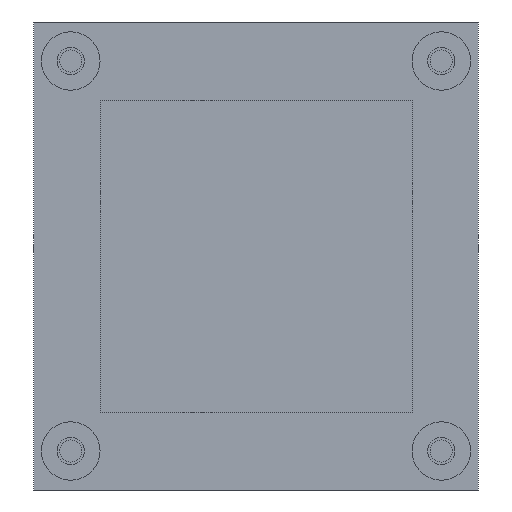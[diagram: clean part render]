
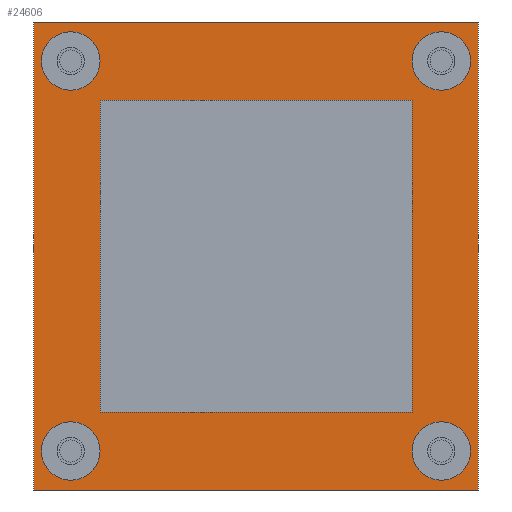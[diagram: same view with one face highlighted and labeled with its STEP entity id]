
A CAD part, front view. The second image highlights one B-rep face of the part: STEP entity #24606.
In plain terms, the highlighted planar face has unit normal (0, -1, 0).
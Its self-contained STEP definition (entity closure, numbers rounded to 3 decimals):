
#23 = FACE_BOUND ( 'NONE', #15666, .T. ) ;
#33 = DIRECTION ( 'NONE',  ( 0., -1., 0. ) ) ;
#80 = EDGE_CURVE ( 'NONE', #17580, #8011, #15087, .T. ) ;
#237 = DIRECTION ( 'NONE',  ( 1., 0., 0. ) ) ;
#439 = CARTESIAN_POINT ( 'NONE',  ( -24.13, 0., -21.59 ) ) ;
#485 = CIRCLE ( 'NONE', #2082, 3.81 ) ;
#568 = CARTESIAN_POINT ( 'NONE',  ( 24.13, 0., 21.59 ) ) ;
#612 = DIRECTION ( 'NONE',  ( 0., -1., 0. ) ) ;
#916 = EDGE_CURVE ( 'NONE', #8011, #16104, #21661, .T. ) ;
#1008 = EDGE_CURVE ( 'NONE', #1773, #10477, #3558, .T. ) ;
#1180 = CIRCLE ( 'NONE', #15220, 3.81 ) ;
#1326 = ORIENTED_EDGE ( 'NONE', *, *, #916, .F. ) ;
#1750 = VERTEX_POINT ( 'NONE', #568 ) ;
#1773 = VERTEX_POINT ( 'NONE', #4477 ) ;
#1803 = EDGE_LOOP ( 'NONE', ( #9414, #2310 ) ) ;
#1907 = FACE_BOUND ( 'NONE', #20688, .T. ) ;
#2082 = AXIS2_PLACEMENT_3D ( 'NONE', #17818, #612, #23592 ) ;
#2145 = EDGE_CURVE ( 'NONE', #1750, #7308, #1180, .T. ) ;
#2310 = ORIENTED_EDGE ( 'NONE', *, *, #24166, .F. ) ;
#2871 = AXIS2_PLACEMENT_3D ( 'NONE', #7808, #3555, #5550 ) ;
#2904 = VERTEX_POINT ( 'NONE', #8644 ) ;
#3083 = AXIS2_PLACEMENT_3D ( 'NONE', #19927, #18192, #3140 ) ;
#3140 = DIRECTION ( 'NONE',  ( 0., 0., -1. ) ) ;
#3280 = CARTESIAN_POINT ( 'NONE',  ( -24.13, 0., -29.21 ) ) ;
#3405 = DIRECTION ( 'NONE',  ( 0., -1., 0. ) ) ;
#3432 = DIRECTION ( 'NONE',  ( 0., 0., -1. ) ) ;
#3448 = ORIENTED_EDGE ( 'NONE', *, *, #21529, .F. ) ;
#3555 = DIRECTION ( 'NONE',  ( 0., 1., 0. ) ) ;
#3558 = CIRCLE ( 'NONE', #11216, 3.81 ) ;
#3788 = AXIS2_PLACEMENT_3D ( 'NONE', #11256, #5185, #18486 ) ;
#3982 = VERTEX_POINT ( 'NONE', #21063 ) ;
#4397 = CARTESIAN_POINT ( 'NONE',  ( 24.13, 0., -25.4 ) ) ;
#4477 = CARTESIAN_POINT ( 'NONE',  ( -24.13, 0., 21.59 ) ) ;
#4989 = DIRECTION ( 'NONE',  ( 0., 0., 1. ) ) ;
#5027 = CARTESIAN_POINT ( 'NONE',  ( -28.956, 0., -30.48 ) ) ;
#5185 = DIRECTION ( 'NONE',  ( 0., -1., 0. ) ) ;
#5245 = AXIS2_PLACEMENT_3D ( 'NONE', #4397, #20154, #6748 ) ;
#5550 = DIRECTION ( 'NONE',  ( 1., 0., 0. ) ) ;
#5667 = FACE_OUTER_BOUND ( 'NONE', #12118, .T. ) ;
#6259 = DIRECTION ( 'NONE',  ( 0., -1., 0. ) ) ;
#6493 = VECTOR ( 'NONE', #4989, 1000. ) ;
#6545 = EDGE_CURVE ( 'NONE', #2904, #3982, #8380, .T. ) ;
#6748 = DIRECTION ( 'NONE',  ( 0., 0., -1. ) ) ;
#6928 = ORIENTED_EDGE ( 'NONE', *, *, #12478, .F. ) ;
#7031 = DIRECTION ( 'NONE',  ( 0., 0., -1. ) ) ;
#7308 = VERTEX_POINT ( 'NONE', #15150 ) ;
#7808 = CARTESIAN_POINT ( 'NONE',  ( -28.956, 0., 30.48 ) ) ;
#8011 = VERTEX_POINT ( 'NONE', #22782 ) ;
#8380 = CIRCLE ( 'NONE', #16008, 3.81 ) ;
#8644 = CARTESIAN_POINT ( 'NONE',  ( 24.13, 0., -21.59 ) ) ;
#9414 = ORIENTED_EDGE ( 'NONE', *, *, #2145, .F. ) ;
#9545 = CIRCLE ( 'NONE', #3083, 3.81 ) ;
#10305 = DIRECTION ( 'NONE',  ( 0., 0., -1. ) ) ;
#10477 = VERTEX_POINT ( 'NONE', #13289 ) ;
#10540 = VERTEX_POINT ( 'NONE', #439 ) ;
#11060 = LINE ( 'NONE', #22544, #6493 ) ;
#11216 = AXIS2_PLACEMENT_3D ( 'NONE', #12403, #33, #3432 ) ;
#11256 = CARTESIAN_POINT ( 'NONE',  ( -24.13, 0., 25.4 ) ) ;
#11583 = VECTOR ( 'NONE', #237, 1000. ) ;
#11985 = EDGE_CURVE ( 'NONE', #10540, #17431, #9545, .T. ) ;
#12118 = EDGE_LOOP ( 'NONE', ( #17480, #17250, #1326, #20762 ) ) ;
#12184 = ORIENTED_EDGE ( 'NONE', *, *, #11985, .F. ) ;
#12190 = DIRECTION ( 'NONE',  ( 0., -1., 0. ) ) ;
#12403 = CARTESIAN_POINT ( 'NONE',  ( -24.13, 0., 25.4 ) ) ;
#12478 = EDGE_CURVE ( 'NONE', #17431, #10540, #18344, .T. ) ;
#12551 = VERTEX_POINT ( 'NONE', #15958 ) ;
#12608 = LINE ( 'NONE', #5027, #20618 ) ;
#13289 = CARTESIAN_POINT ( 'NONE',  ( -24.13, 0., 29.21 ) ) ;
#13629 = PLANE ( 'NONE',  #2871 ) ;
#14872 = EDGE_CURVE ( 'NONE', #16104, #12551, #12608, .T. ) ;
#15087 = LINE ( 'NONE', #15329, #11583 ) ;
#15110 = FACE_BOUND ( 'NONE', #16614, .T. ) ;
#15150 = CARTESIAN_POINT ( 'NONE',  ( 24.13, 0., 29.21 ) ) ;
#15220 = AXIS2_PLACEMENT_3D ( 'NONE', #19655, #12190, #10305 ) ;
#15329 = CARTESIAN_POINT ( 'NONE',  ( -28.956, 0., 30.48 ) ) ;
#15422 = CARTESIAN_POINT ( 'NONE',  ( 28.956, 0., -30.48 ) ) ;
#15514 = DIRECTION ( 'NONE',  ( 0., 0., -1. ) ) ;
#15666 = EDGE_LOOP ( 'NONE', ( #6928, #12184 ) ) ;
#15698 = VECTOR ( 'NONE', #15514, 1000. ) ;
#15958 = CARTESIAN_POINT ( 'NONE',  ( -28.956, 0., -30.48 ) ) ;
#16008 = AXIS2_PLACEMENT_3D ( 'NONE', #16352, #3405, #7031 ) ;
#16032 = CARTESIAN_POINT ( 'NONE',  ( 28.956, 0., -30.48 ) ) ;
#16099 = CIRCLE ( 'NONE', #5245, 3.81 ) ;
#16104 = VERTEX_POINT ( 'NONE', #15422 ) ;
#16352 = CARTESIAN_POINT ( 'NONE',  ( 24.13, 0., -25.4 ) ) ;
#16614 = EDGE_LOOP ( 'NONE', ( #18327, #19969 ) ) ;
#16763 = AXIS2_PLACEMENT_3D ( 'NONE', #19805, #6259, #23725 ) ;
#17250 = ORIENTED_EDGE ( 'NONE', *, *, #14872, .F. ) ;
#17336 = CARTESIAN_POINT ( 'NONE',  ( -28.956, 0., 30.48 ) ) ;
#17431 = VERTEX_POINT ( 'NONE', #3280 ) ;
#17480 = ORIENTED_EDGE ( 'NONE', *, *, #21701, .F. ) ;
#17580 = VERTEX_POINT ( 'NONE', #17336 ) ;
#17818 = CARTESIAN_POINT ( 'NONE',  ( 24.13, 0., 25.4 ) ) ;
#17962 = EDGE_CURVE ( 'NONE', #10477, #1773, #21423, .T. ) ;
#18192 = DIRECTION ( 'NONE',  ( 0., -1., 0. ) ) ;
#18327 = ORIENTED_EDGE ( 'NONE', *, *, #1008, .F. ) ;
#18344 = CIRCLE ( 'NONE', #16763, 3.81 ) ;
#18486 = DIRECTION ( 'NONE',  ( 0., 0., -1. ) ) ;
#19655 = CARTESIAN_POINT ( 'NONE',  ( 24.13, 0., 25.4 ) ) ;
#19805 = CARTESIAN_POINT ( 'NONE',  ( -24.13, 0., -25.4 ) ) ;
#19927 = CARTESIAN_POINT ( 'NONE',  ( -24.13, 0., -25.4 ) ) ;
#19969 = ORIENTED_EDGE ( 'NONE', *, *, #17962, .F. ) ;
#20154 = DIRECTION ( 'NONE',  ( 0., -1., 0. ) ) ;
#20188 = DIRECTION ( 'NONE',  ( -1., 0., 0. ) ) ;
#20618 = VECTOR ( 'NONE', #20188, 1000. ) ;
#20688 = EDGE_LOOP ( 'NONE', ( #3448, #23144 ) ) ;
#20762 = ORIENTED_EDGE ( 'NONE', *, *, #80, .F. ) ;
#21063 = CARTESIAN_POINT ( 'NONE',  ( 24.13, 0., -29.21 ) ) ;
#21248 = FACE_BOUND ( 'NONE', #1803, .T. ) ;
#21423 = CIRCLE ( 'NONE', #3788, 3.81 ) ;
#21529 = EDGE_CURVE ( 'NONE', #3982, #2904, #16099, .T. ) ;
#21661 = LINE ( 'NONE', #16032, #15698 ) ;
#21701 = EDGE_CURVE ( 'NONE', #12551, #17580, #11060, .T. ) ;
#22544 = CARTESIAN_POINT ( 'NONE',  ( -28.956, 0., -30.48 ) ) ;
#22782 = CARTESIAN_POINT ( 'NONE',  ( 28.956, 0., 30.48 ) ) ;
#23144 = ORIENTED_EDGE ( 'NONE', *, *, #6545, .F. ) ;
#23592 = DIRECTION ( 'NONE',  ( 0., 0., -1. ) ) ;
#23725 = DIRECTION ( 'NONE',  ( 0., 0., -1. ) ) ;
#24166 = EDGE_CURVE ( 'NONE', #7308, #1750, #485, .T. ) ;
#24606 = ADVANCED_FACE ( 'NONE', ( #15110, #21248, #23, #1907, #5667 ), #13629, .F. ) ;
